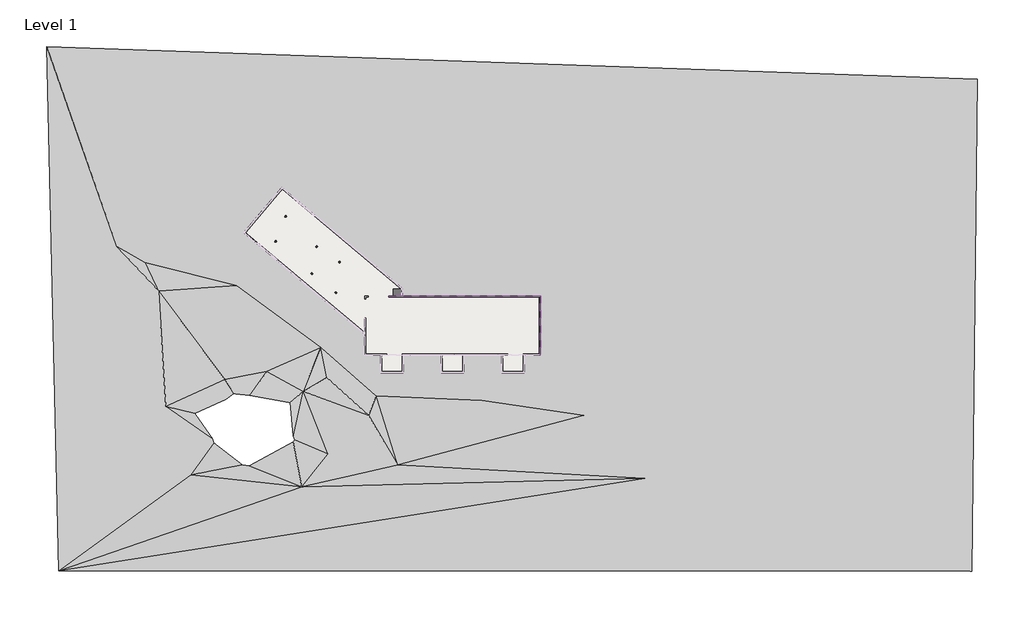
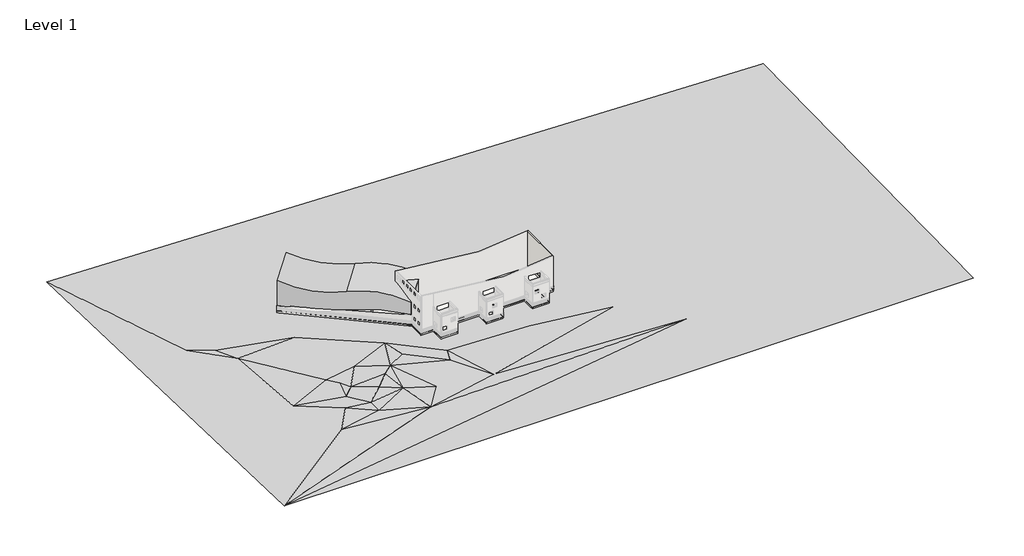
# One storey, part 6 of 6: 25 proxies, 6 columns, 1 slab, 1 wall.
"""IFC4 building model written with IfcOpenShell, lengths in millimetres."""

from ifc_helpers import new_model, si_unit, frame, origin, place, context, project, spatial, polyline, circle_curve, ellipse_curve, outline, extrude, faceted_brep, triangles, transform, mapped, element, save
from ifc_brep_helpers import plane_surface, cylinder_surface, revolved_surface, advanced_brep
from components import column_bf595cd3, column_7915c079

model = new_model("IFC4")

# Units and contexts
model_context = context("Model", 3, world=origin())
ifc_project = project(units=[si_unit("LENGTHUNIT", "METRE", prefix="MILLI")], contexts=[model_context])

# Site, building, storey
site = spatial("IfcSite", under=ifc_project)
building = spatial("IfcBuilding", under=site)
storey = spatial("IfcBuildingStorey", under=building, Name="Level 1", Elevation=0.0)

# Proxies
placement = place(None, origin())
element("IfcBuildingElementProxy", 1, Name="Wall Sweeps", at=placement, inside=storey, context=model_context, shape_type="Brep", body=[
    faceted_brep([(41871.6113427, -9337.8879393, 1085.85), (41963.6863427, -9429.9629393, 1085.85), (41998.6113427, -9464.8879393, 1041.4), (41998.6113427, -9464.8879393, 1016.0), (41871.6113427, -9337.8879393, 1016.0), (36124.8613427, -9337.8879393, 1085.85), (36124.8613427, -9337.8879393, 1016.0), (36124.8613427, -9429.9629393, 1016.0), (36124.8613427, -9464.8879393, 1016.0), (36124.8613427, -9464.8879393, 1041.4), (36124.8613427, -9429.9629393, 1085.85)], [[[0, 1, 2, 3, 4]], [[5, 6, 7, 8, 9, 10]], [[1, 0, 5, 10]], [[2, 1, 10, 9]], [[3, 2, 9, 8]], [[4, 3, 8, 7, 6]], [[0, 4, 6, 5]]]),
    faceted_brep([(30814.6738427, -9337.8879393, 1085.85), (30814.6738427, -9429.9629393, 1085.85), (30814.6738427, -9464.8879393, 1041.4), (30814.6738427, -9464.8879393, 1016.0), (30814.6738427, -9429.9629393, 1016.0), (30814.6738427, -9337.8879393, 1016.0), (12831.4738427, -9337.8879393, 1085.85), (12831.4738427, -9337.8879393, 1016.0), (12831.4738427, -9429.9629393, 1016.0), (12831.4738427, -9464.8879393, 1016.0), (12831.4738427, -9464.8879393, 1041.4), (12831.4738427, -9429.9629393, 1085.85)], [[[0, 1, 2, 3, 4, 5]], [[6, 7, 8, 9, 10, 11]], [[1, 0, 6, 11]], [[2, 1, 11, 10]], [[3, 2, 10, 9]], [[5, 4, 3, 9, 8, 7]], [[0, 5, 7, 6]]]),
    faceted_brep([(11002.6738427, -9337.8879393, 1085.85), (11002.6738427, -9429.9629393, 1085.85), (11002.6738427, -9464.8879393, 1041.4), (11002.6738427, -9464.8879393, 1016.0), (11002.6738427, -9429.9629393, 1016.0), (11002.6738427, -9337.8879393, 1016.0), (-5327.9386573, -9337.8879393, 1085.85), (-5327.9386573, -9337.8879393, 1016.0), (-5327.9386573, -9429.9629393, 1016.0), (-5327.9386573, -9464.8879393, 1016.0), (-5327.9386573, -9464.8879393, 1041.4), (-5327.9386573, -9429.9629393, 1085.85)], [[[0, 1, 2, 3, 4, 5]], [[6, 7, 8, 9, 10, 11]], [[1, 0, 6, 11]], [[2, 1, 11, 10]], [[3, 2, 10, 9]], [[5, 4, 3, 9, 8, 7]], [[0, 5, 7, 6]]]),
    faceted_brep([(-10638.1261573, -9337.8879393, 1085.85), (-10638.1261573, -9429.9629393, 1085.85), (-10638.1261573, -9464.8879393, 1041.4), (-10638.1261573, -9464.8879393, 1016.0), (-10638.1261573, -9429.9629393, 1016.0), (-10638.1261573, -9337.8879393, 1016.0), (-12290.7136573, -9337.8879393, 1085.85), (-12290.7136573, -9337.8879393, 1016.0), (-12290.7136573, -9429.9629393, 1016.0), (-12290.7136573, -9464.8879393, 1016.0), (-12290.7136573, -9464.8879393, 1041.4), (-12290.7136573, -9429.9629393, 1085.85)], [[[0, 1, 2, 3, 4, 5]], [[6, 7, 8, 9, 10, 11]], [[1, 0, 6, 11]], [[2, 1, 11, 10]], [[3, 2, 10, 9]], [[5, 4, 3, 9, 8, 7]], [[0, 5, 7, 6]]]),
])
element("IfcBuildingElementProxy", 2, Name="Reveals", at=placement, inside=storey, context=model_context, shape_type="SweptSolid", body=[
    extrude(outline(polyline([(-18104.1386573, 10709.0620607), (-18196.2136573, 10801.1370607), (-16886.5261573, 10801.1370607), (-16886.5261573, 10709.0620607), (-18104.1386573, 10709.0620607)])), frame((0.0, 0.0, 1625.6), z_axis=(0.0, 0.0, 1.0), x_axis=(1.0, 0.0, 0.0)), (0.0, 0.0, 1.0), 67.7333333),
    extrude(outline(polyline([(-9876.1261573, 10709.0620607), (-9876.1261573, 10801.1370607), (42030.3613427, 10801.1370607), (41938.2863427, 10709.0620607), (-9876.1261573, 10709.0620607)])), frame((0.0, 0.0, 1625.6), z_axis=(0.0, 0.0, 1.0), x_axis=(1.0, 0.0, 0.0)), (0.0, 0.0, 1.0), 67.7333333),
])
element("IfcBuildingElementProxy", 3, Name="Reveals", at=placement, inside=storey, context=model_context, shape_type="SweptSolid", body=[
    extrude(outline(polyline([(-18104.1386573, 10709.0620607), (-18196.2136573, 10801.1370607), (-16886.5261573, 10801.1370607), (-16886.5261573, 10709.0620607), (-18104.1386573, 10709.0620607)])), frame((0.0, 0.0, 2235.2), z_axis=(0.0, 0.0, 1.0), x_axis=(1.0, 0.0, 0.0)), (0.0, 0.0, 1.0), 67.7333333),
    extrude(outline(polyline([(-9876.1261573, 10709.0620607), (-9876.1261573, 10801.1370607), (42030.3613427, 10801.1370607), (41938.2863427, 10709.0620607), (-9876.1261573, 10709.0620607)])), frame((0.0, 0.0, 2235.2), z_axis=(0.0, 0.0, 1.0), x_axis=(1.0, 0.0, 0.0)), (0.0, 0.0, 1.0), 67.7333333),
])
element("IfcBuildingElementProxy", 4, Name="Reveals", at=placement, inside=storey, context=model_context, shape_type="SweptSolid", body=[
    extrude(outline(polyline([(-18104.1386573, 10709.0620607), (-18196.2136573, 10801.1370607), (-16886.5261573, 10801.1370607), (-16886.5261573, 10709.0620607), (-18104.1386573, 10709.0620607)])), frame((0.0, 0.0, 2844.8), z_axis=(0.0, 0.0, 1.0), x_axis=(1.0, 0.0, 0.0)), (0.0, 0.0, 1.0), 67.7333333),
    extrude(outline(polyline([(-9876.1261573, 10709.0620607), (-9876.1261573, 10801.1370607), (42030.3613427, 10801.1370607), (41938.2863427, 10709.0620607), (-9876.1261573, 10709.0620607)])), frame((0.0, 0.0, 2844.8), z_axis=(0.0, 0.0, 1.0), x_axis=(1.0, 0.0, 0.0)), (0.0, 0.0, 1.0), 67.7333333),
])
element("IfcBuildingElementProxy", 5, Name="Wall Sweeps", at=placement, inside=storey, context=model_context, shape_type="Brep", body=[
    faceted_brep([(-18037.4636573, 10642.3870607, 1085.85), (-18129.5386573, 10734.4620607, 1085.85), (-18164.4636573, 10769.3870607, 1041.4), (-18164.4636573, 10769.3870607, 1016.0), (-18037.4636573, 10642.3870607, 1016.0), (-16886.5261573, 10642.3870607, 1085.85), (-16886.5261573, 10642.3870607, 1016.0), (-16886.5261573, 10734.4620607, 1016.0), (-16886.5261573, 10769.3870607, 1016.0), (-16886.5261573, 10769.3870607, 1041.4), (-16886.5261573, 10734.4620607, 1085.85)], [[[0, 1, 2, 3, 4]], [[5, 6, 7, 8, 9, 10]], [[1, 0, 5, 10]], [[2, 1, 10, 9]], [[3, 2, 9, 8]], [[4, 3, 8, 7, 6]], [[0, 4, 6, 5]]]),
    faceted_brep([(-9876.1261573, 10642.3870607, 1085.85), (-9876.1261573, 10734.4620607, 1085.85), (-9876.1261573, 10769.3870607, 1041.4), (-9876.1261573, 10769.3870607, 1016.0), (-9876.1261573, 10734.4620607, 1016.0), (-9876.1261573, 10642.3870607, 1016.0), (41871.6113427, 10642.3870607, 1085.85), (41871.6113427, 10642.3870607, 1016.0), (41998.6113427, 10769.3870607, 1016.0), (41998.6113427, 10769.3870607, 1041.4), (41963.6863427, 10734.4620607, 1085.85)], [[[0, 1, 2, 3, 4, 5]], [[6, 7, 8, 9, 10]], [[1, 0, 6, 10]], [[2, 1, 10, 9]], [[3, 2, 9, 8]], [[5, 4, 3, 8, 7]], [[0, 5, 7, 6]]]),
])
element("IfcBuildingElementProxy", 6, Name="Wall Sweeps", at=placement, inside=storey, context=model_context, shape_type="Brep", body=[
    faceted_brep([(-18037.4636573, -9337.8879393, 1085.85), (-18129.5386573, -9429.9629393, 1085.85), (-18164.4636573, -9464.8879393, 1041.4), (-18164.4636573, -9464.8879393, 1016.0), (-18037.4636573, -9337.8879393, 1016.0), (-18037.4636573, 3243.0495607, 1085.85), (-18037.4636573, 3243.0495607, 1016.0), (-18129.5386573, 3243.0495607, 1016.0), (-18164.4636573, 3243.0495607, 1016.0), (-18164.4636573, 3243.0495607, 1041.4), (-18129.5386573, 3243.0495607, 1085.85)], [[[0, 1, 2, 3, 4]], [[5, 6, 7, 8, 9, 10]], [[1, 0, 5, 10]], [[2, 1, 10, 9]], [[3, 2, 9, 8]], [[4, 3, 8, 7, 6]], [[0, 4, 6, 5]]]),
    faceted_brep([(-18037.4636573, 9643.8495607, 1085.85), (-18129.5386573, 9643.8495607, 1085.85), (-18164.4636573, 9643.8495607, 1041.4), (-18164.4636573, 9643.8495607, 1016.0), (-18129.5386573, 9643.8495607, 1016.0), (-18037.4636573, 9643.8495607, 1016.0), (-18037.4636573, 10642.3870607, 1085.85), (-18037.4636573, 10642.3870607, 1016.0), (-18164.4636573, 10769.3870607, 1016.0), (-18164.4636573, 10769.3870607, 1041.4), (-18129.5386573, 10734.4620607, 1085.85), (-18037.4636573, 10382.0370607, 1085.85), (-18037.4636573, 10382.0370607, 1016.0)], [[[0, 1, 2, 3, 4, 5]], [[6, 7, 8, 9, 10]], [[1, 0, 11, 6, 10]], [[2, 1, 10, 9]], [[3, 2, 9, 8]], [[5, 4, 3, 8, 7, 12]], [[0, 5, 12, 7, 6, 11]]]),
])
element("IfcBuildingElementProxy", 7, Name="Reveals", at=placement, inside=storey, context=model_context, shape_type="SweptSolid", body=[
    extrude(outline(polyline([(41938.2863427, 10709.0620607), (42030.3613427, 10801.1370607), (42030.3613427, -9496.6379393), (41938.2863427, -9404.5629393), (41938.2863427, 10709.0620607)])), frame((0.0, 0.0, 1625.6), z_axis=(0.0, 0.0, 1.0), x_axis=(1.0, 0.0, 0.0)), (0.0, 0.0, 1.0), 67.7333333),
])
element("IfcBuildingElementProxy", 8, Name="Reveals", at=placement, inside=storey, context=model_context, shape_type="SweptSolid", body=[
    extrude(outline(polyline([(41938.2863427, 10709.0620607), (42030.3613427, 10801.1370607), (42030.3613427, -9496.6379393), (41938.2863427, -9404.5629393), (41938.2863427, 10709.0620607)])), frame((0.0, 0.0, 2235.2), z_axis=(0.0, 0.0, 1.0), x_axis=(1.0, 0.0, 0.0)), (0.0, 0.0, 1.0), 67.7333333),
])
element("IfcBuildingElementProxy", 9, Name="Reveals", at=placement, inside=storey, context=model_context, shape_type="SweptSolid", body=[
    extrude(outline(polyline([(41938.2863427, 10709.0620607), (42030.3613427, 10801.1370607), (42030.3613427, -9496.6379393), (41938.2863427, -9404.5629393), (41938.2863427, 10709.0620607)])), frame((0.0, 0.0, 2844.8), z_axis=(0.0, 0.0, 1.0), x_axis=(1.0, 0.0, 0.0)), (0.0, 0.0, 1.0), 67.7333333),
])
element("IfcBuildingElementProxy", 10, Name="Wall Sweeps", at=placement, inside=storey, context=model_context, shape_type="Brep", body=[
    faceted_brep([(41871.6113427, 10642.3870607, 1085.85), (41963.6863427, 10734.4620607, 1085.85), (41998.6113427, 10769.3870607, 1041.4), (41998.6113427, 10769.3870607, 1016.0), (41871.6113427, 10642.3870607, 1016.0), (41871.6113427, -9337.8879393, 1085.85), (41871.6113427, -9337.8879393, 1016.0), (41998.6113427, -9464.8879393, 1016.0), (41998.6113427, -9464.8879393, 1041.4), (41963.6863427, -9429.9629393, 1085.85), (41871.6113427, 10382.0370607, 1085.85), (41871.6113427, -9077.5379393, 1085.85), (41871.6113427, -9077.5379393, 1016.0), (41871.6113427, 10382.0370607, 1016.0)], [[[0, 1, 2, 3, 4]], [[5, 6, 7, 8, 9]], [[1, 0, 10, 11, 5, 9]], [[2, 1, 9, 8]], [[3, 2, 8, 7]], [[4, 3, 7, 6, 12, 13]], [[0, 4, 13, 12, 6, 5, 11, 10]]]),
])
element("IfcBuildingElementProxy", 11, Name="Wall Sweeps", at=placement, inside=storey, context=model_context, shape_type="Brep", body=[
    faceted_brep([(-12551.0636573, -10625.3504393, 1085.85), (-12551.0636573, -10625.3504393, 1016.0), (-12643.1386573, -10625.3504393, 1016.0), (-12678.0636573, -10625.3504393, 1016.0), (-12678.0636573, -10625.3504393, 1041.4), (-12643.1386573, -10625.3504393, 1085.85), (-12551.0636573, -15433.8879393, 1085.85), (-12643.1386573, -15525.9629393, 1085.85), (-12678.0636573, -15560.8879393, 1041.4), (-12678.0636573, -15560.8879393, 1016.0), (-12551.0636573, -15433.8879393, 1016.0)], [[[0, 1, 2, 3, 4, 5]], [[6, 7, 8, 9, 10]], [[1, 0, 6, 10]], [[3, 2, 1, 10, 9]], [[4, 3, 9, 8]], [[5, 4, 8, 7]], [[0, 5, 7, 6]]]),
    faceted_brep([(-12551.0636573, -9337.8879393, 1085.85), (-12551.0636573, -9337.8879393, 1016.0), (-12678.0636573, -9464.8879393, 1016.0), (-12678.0636573, -9464.8879393, 1041.4), (-12643.1386573, -9429.9629393, 1085.85), (-12551.0636573, -9710.9504393, 1085.85), (-12643.1386573, -9710.9504393, 1085.85), (-12678.0636573, -9710.9504393, 1041.4), (-12678.0636573, -9710.9504393, 1016.0), (-12643.1386573, -9710.9504393, 1016.0), (-12551.0636573, -9710.9504393, 1016.0), (-12551.0636573, -9429.9629393, 1085.85), (-12551.0636573, -9429.9629393, 1016.0)], [[[0, 1, 2, 3, 4]], [[5, 6, 7, 8, 9, 10]], [[1, 0, 11, 5, 10, 12]], [[2, 1, 12, 10, 9, 8]], [[3, 2, 8, 7]], [[4, 3, 7, 6]], [[0, 4, 6, 5, 11]]]),
])
element("IfcBuildingElementProxy", 12, Name="Wall Sweeps", at=placement, inside=storey, context=model_context, shape_type="Brep", body=[
    faceted_brep([(-12551.0636573, -15433.8879393, 1085.85), (-12551.0636573, -15433.8879393, 1016.0), (-12678.0636573, -15560.8879393, 1016.0), (-12678.0636573, -15560.8879393, 1041.4), (-12643.1386573, -15525.9629393, 1085.85), (-5067.5886573, -15433.8879393, 1085.85), (-4975.5136573, -15525.9629393, 1085.85), (-4940.5886573, -15560.8879393, 1041.4), (-4940.5886573, -15560.8879393, 1016.0), (-5067.5886573, -15433.8879393, 1016.0), (-12290.7136573, -15433.8879393, 1085.85), (-12290.7136573, -15433.8879393, 1016.0)], [[[0, 1, 2, 3, 4]], [[5, 6, 7, 8, 9]], [[1, 0, 10, 5, 9, 11]], [[2, 1, 11, 9, 8]], [[3, 2, 8, 7]], [[4, 3, 7, 6]], [[0, 4, 6, 5, 10]]]),
])
element("IfcBuildingElementProxy", 13, Name="Wall Sweeps", at=placement, inside=storey, context=model_context, shape_type="Brep", body=[
    faceted_brep([(-5067.5886573, -15433.8879393, 1085.85), (-5067.5886573, -15433.8879393, 1016.0), (-4940.5886573, -15560.8879393, 1016.0), (-4940.5886573, -15560.8879393, 1041.4), (-4975.5136573, -15525.9629393, 1085.85), (-5067.5886573, -9429.9629393, 1085.85), (-4975.5136573, -9429.9629393, 1085.85), (-4940.5886573, -9429.9629393, 1041.4), (-4940.5886573, -9429.9629393, 1016.0), (-4975.5136573, -9429.9629393, 1016.0), (-5067.5886573, -9429.9629393, 1016.0), (-5067.5886573, -15173.5379393, 1085.85), (-5067.5886573, -9464.8879393, 1016.0), (-5067.5886573, -15173.5379393, 1016.0)], [[[0, 1, 2, 3, 4]], [[5, 6, 7, 8, 9, 10]], [[1, 0, 11, 5, 10, 12, 13]], [[2, 1, 13, 12, 10, 9, 8]], [[3, 2, 8, 7]], [[4, 3, 7, 6]], [[0, 4, 6, 5, 11]]]),
])
element("IfcBuildingElementProxy", 14, Name="Wall Sweeps", at=placement, inside=storey, context=model_context, shape_type="Brep", body=[
    faceted_brep([(8175.3363427, -10625.3504393, 1085.85), (8175.3363427, -10625.3504393, 1016.0), (8083.2613427, -10625.3504393, 1016.0), (8048.3363427, -10625.3504393, 1016.0), (8048.3363427, -10625.3504393, 1041.4), (8083.2613427, -10625.3504393, 1085.85), (8175.3363427, -15433.8879393, 1085.85), (8083.2613427, -15525.9629393, 1085.85), (8048.3363427, -15560.8879393, 1041.4), (8048.3363427, -15560.8879393, 1016.0), (8175.3363427, -15433.8879393, 1016.0)], [[[0, 1, 2, 3, 4, 5]], [[6, 7, 8, 9, 10]], [[1, 0, 6, 10]], [[3, 2, 1, 10, 9]], [[4, 3, 9, 8]], [[5, 4, 8, 7]], [[0, 5, 7, 6]]]),
    faceted_brep([(8175.3363427, -9429.9629393, 1085.85), (8175.3363427, -9429.9629393, 1016.0), (8083.2613427, -9429.9629393, 1016.0), (8048.3363427, -9429.9629393, 1016.0), (8048.3363427, -9429.9629393, 1041.4), (8083.2613427, -9429.9629393, 1085.85), (8175.3363427, -9710.9504393, 1085.85), (8083.2613427, -9710.9504393, 1085.85), (8048.3363427, -9710.9504393, 1041.4), (8048.3363427, -9710.9504393, 1016.0), (8083.2613427, -9710.9504393, 1016.0), (8175.3363427, -9710.9504393, 1016.0)], [[[0, 1, 2, 3, 4, 5]], [[6, 7, 8, 9, 10, 11]], [[1, 0, 6, 11]], [[3, 2, 1, 11, 10, 9]], [[4, 3, 9, 8]], [[5, 4, 8, 7]], [[0, 5, 7, 6]]]),
])
element("IfcBuildingElementProxy", 15, Name="Wall Sweeps", at=placement, inside=storey, context=model_context, shape_type="Brep", body=[
    faceted_brep([(8175.3363427, -15433.8879393, 1085.85), (8175.3363427, -15433.8879393, 1016.0), (8048.3363427, -15560.8879393, 1016.0), (8048.3363427, -15560.8879393, 1041.4), (8083.2613427, -15525.9629393, 1085.85), (15658.8113427, -15433.8879393, 1085.85), (15750.8863427, -15525.9629393, 1085.85), (15785.8113427, -15560.8879393, 1041.4), (15785.8113427, -15560.8879393, 1016.0), (15658.8113427, -15433.8879393, 1016.0), (8435.6863427, -15433.8879393, 1085.85), (8435.6863427, -15433.8879393, 1016.0)], [[[0, 1, 2, 3, 4]], [[5, 6, 7, 8, 9]], [[1, 0, 10, 5, 9, 11]], [[2, 1, 11, 9, 8]], [[3, 2, 8, 7]], [[4, 3, 7, 6]], [[0, 4, 6, 5, 10]]]),
])
element("IfcBuildingElementProxy", 16, Name="Wall Sweeps", at=placement, inside=storey, context=model_context, shape_type="Brep", body=[
    faceted_brep([(15658.8113427, -15433.8879393, 1085.85), (15658.8113427, -15433.8879393, 1016.0), (15785.8113427, -15560.8879393, 1016.0), (15785.8113427, -15560.8879393, 1041.4), (15750.8863427, -15525.9629393, 1085.85), (15658.8113427, -9429.9629393, 1085.85), (15750.8863427, -9429.9629393, 1085.85), (15785.8113427, -9429.9629393, 1041.4), (15785.8113427, -9429.9629393, 1016.0), (15750.8863427, -9429.9629393, 1016.0), (15658.8113427, -9429.9629393, 1016.0), (15658.8113427, -15173.5379393, 1085.85), (15658.8113427, -15173.5379393, 1016.0)], [[[0, 1, 2, 3, 4]], [[5, 6, 7, 8, 9, 10]], [[1, 0, 11, 5, 10, 12]], [[2, 1, 12, 10, 9, 8]], [[3, 2, 8, 7]], [[4, 3, 7, 6]], [[0, 4, 6, 5, 11]]]),
])
element("IfcBuildingElementProxy", 17, Name="Wall Sweeps", at=placement, inside=storey, context=model_context, shape_type="Brep", body=[
    faceted_brep([(28901.7363427, -10625.3504393, 1085.85), (28901.7363427, -10625.3504393, 1016.0), (28809.6613427, -10625.3504393, 1016.0), (28774.7363427, -10625.3504393, 1016.0), (28774.7363427, -10625.3504393, 1041.4), (28809.6613427, -10625.3504393, 1085.85), (28901.7363427, -15433.8879393, 1085.85), (28809.6613427, -15525.9629393, 1085.85), (28774.7363427, -15560.8879393, 1041.4), (28774.7363427, -15560.8879393, 1016.0), (28901.7363427, -15433.8879393, 1016.0)], [[[0, 1, 2, 3, 4, 5]], [[6, 7, 8, 9, 10]], [[1, 0, 6, 10]], [[3, 2, 1, 10, 9]], [[4, 3, 9, 8]], [[5, 4, 8, 7]], [[0, 5, 7, 6]]]),
    faceted_brep([(28901.7363427, -9429.9629393, 1085.85), (28901.7363427, -9429.9629393, 1016.0), (28809.6613427, -9429.9629393, 1016.0), (28774.7363427, -9429.9629393, 1016.0), (28774.7363427, -9429.9629393, 1041.4), (28809.6613427, -9429.9629393, 1085.85), (28901.7363427, -9710.9504393, 1085.85), (28809.6613427, -9710.9504393, 1085.85), (28774.7363427, -9710.9504393, 1041.4), (28774.7363427, -9710.9504393, 1016.0), (28809.6613427, -9710.9504393, 1016.0), (28901.7363427, -9710.9504393, 1016.0)], [[[0, 1, 2, 3, 4, 5]], [[6, 7, 8, 9, 10, 11]], [[1, 0, 6, 11]], [[3, 2, 1, 11, 10, 9]], [[4, 3, 9, 8]], [[5, 4, 8, 7]], [[0, 5, 7, 6]]]),
])
element("IfcBuildingElementProxy", 18, Name="Wall Sweeps", at=placement, inside=storey, context=model_context, shape_type="Brep", body=[
    faceted_brep([(28901.7363427, -15433.8879393, 1085.85), (28901.7363427, -15433.8879393, 1016.0), (28774.7363427, -15560.8879393, 1016.0), (28774.7363427, -15560.8879393, 1041.4), (28809.6613427, -15525.9629393, 1085.85), (36385.2113427, -15433.8879393, 1085.85), (36477.2863427, -15525.9629393, 1085.85), (36512.2113427, -15560.8879393, 1041.4), (36512.2113427, -15560.8879393, 1016.0), (36385.2113427, -15433.8879393, 1016.0), (29162.0863427, -15433.8879393, 1085.85), (29162.0863427, -15433.8879393, 1016.0)], [[[0, 1, 2, 3, 4]], [[5, 6, 7, 8, 9]], [[1, 0, 10, 5, 9, 11]], [[2, 1, 11, 9, 8]], [[3, 2, 8, 7]], [[4, 3, 7, 6]], [[0, 4, 6, 5, 10]]]),
])
element("IfcBuildingElementProxy", 19, Name="Wall Sweeps", at=placement, inside=storey, context=model_context, shape_type="Brep", body=[
    faceted_brep([(36385.2113427, -15433.8879393, 1085.85), (36385.2113427, -15433.8879393, 1016.0), (36512.2113427, -15560.8879393, 1016.0), (36512.2113427, -15560.8879393, 1041.4), (36477.2863427, -15525.9629393, 1085.85), (36385.2113427, -9429.9629393, 1085.85), (36477.2863427, -9429.9629393, 1085.85), (36512.2113427, -9429.9629393, 1041.4), (36512.2113427, -9429.9629393, 1016.0), (36477.2863427, -9429.9629393, 1016.0), (36385.2113427, -9429.9629393, 1016.0), (36385.2113427, -15173.5379393, 1085.85), (36385.2113427, -15173.5379393, 1016.0)], [[[0, 1, 2, 3, 4]], [[5, 6, 7, 8, 9, 10]], [[1, 0, 11, 5, 10, 12]], [[2, 1, 12, 10, 9, 8]], [[3, 2, 8, 7]], [[4, 3, 7, 6]], [[0, 4, 6, 5, 11]]]),
])
element("IfcBuildingElementProxy", 20, Name="Wall Sweeps", at=placement, inside=storey, context=model_context, shape_type="Brep", body=[
    faceted_brep([(-12551.0636573, -9337.8879393, 1085.85), (-12643.1386573, -9429.9629393, 1085.85), (-12678.0636573, -9464.8879393, 1041.4), (-12678.0636573, -9464.8879393, 1016.0), (-12551.0636573, -9337.8879393, 1016.0), (-18037.4636573, -9337.8879393, 1085.85), (-18037.4636573, -9337.8879393, 1016.0), (-18164.4636573, -9464.8879393, 1016.0), (-18164.4636573, -9464.8879393, 1041.4), (-18129.5386573, -9429.9629393, 1085.85), (-17777.1136573, -9337.8879393, 1085.85), (-17777.1136573, -9337.8879393, 1016.0)], [[[0, 1, 2, 3, 4]], [[5, 6, 7, 8, 9]], [[1, 0, 10, 5, 9]], [[2, 1, 9, 8]], [[3, 2, 8, 7]], [[4, 3, 7, 6, 11]], [[0, 4, 11, 6, 5, 10]]]),
])
element("IfcBuildingElementProxy", 21, Name="Building Element Proxy", at=placement, inside=storey, context=model_context, shape_type="Tessellation", body=[
    triangles([(-126983.1607178, 96175.2923584, 0.0), (191531.118457, 84924.6395508, 0.0), (189656.5166016, -83501.7496582, 0.0), (-122847.3852539, -83326.4487305, 0.0), (-65220.093457, -32388.9555725, 1524.0), (-60632.8943848, -27801.7541748, 1524.0), (-50948.80177, -33408.3352112, 1524.0), (-59103.8249268, -40798.8259644, 1524.0), (-62671.6490112, -22959.7101929, 1219.2), (-43813.1536011, -26017.844458, 1219.2), (-42793.7786133, -38250.3791931, 1219.2), (-58848.9800171, -46915.0944946, 1219.2), (-69297.6073608, -38760.0690125, 1219.2), (-65984.628186, -17862.8189758, 914.4), (-39225.9545288, -21940.3305542, 914.4), (-30816.0864624, -43347.2704102, 914.4), (-39735.6443481, -54560.427832, 914.4), (-77707.4754272, -50482.9185791, 914.4), (-86117.3481445, -27037.2217712, 914.4), (-51713.336499, -15059.5296204, 609.6), (-16799.6373596, -30095.3560364, 609.6), (-6860.7015793, -47169.9394043, 609.6), (-31070.9290466, -17098.2854095, 609.6), (-88665.7879395, 12463.6776031, 609.6), (-93252.9870117, 22147.7690552, 304.8), (-61907.1142822, 14247.5896454, 304.8), (-33109.6859985, -6904.5053009, 304.8), (-14251.1917511, -23469.3976868, 304.8), (21936.7284485, -24998.4648193, 304.8), (56850.4275879, -30095.3560364, 304.8), (77747.6776245, -51757.1384766, 304.8), (-102937.0842773, 27754.3477661, 304.8)], [[4, 18, 19], [12, 18, 17], [19, 13, 5], [13, 19, 18], [18, 12, 13], [4, 19, 32], [7, 6, 8], [8, 5, 13], [19, 5, 14], [6, 5, 8], [6, 10, 20], [8, 13, 12], [18, 4, 17], [9, 5, 6], [1, 25, 26], [24, 25, 32], [1, 32, 25], [32, 1, 4], [25, 24, 26], [32, 19, 24], [14, 9, 20], [24, 19, 14], [26, 20, 27], [20, 26, 14], [9, 6, 20], [14, 26, 24], [5, 9, 14], [1, 26, 2], [8, 12, 11], [17, 16, 11], [16, 17, 22], [11, 10, 7], [7, 8, 11], [15, 11, 16], [11, 12, 17], [30, 31, 2], [31, 22, 17], [22, 21, 16], [30, 22, 31], [31, 3, 2], [17, 4, 31], [4, 3, 31], [29, 22, 30], [15, 27, 20], [23, 15, 21], [27, 23, 28], [23, 27, 15], [10, 11, 15], [20, 10, 15], [22, 28, 21], [28, 22, 29], [29, 27, 28], [29, 2, 26], [29, 30, 2], [21, 28, 23], [16, 21, 15], [29, 26, 27], [10, 6, 7]], closed=False),
])
element("IfcBuildingElementProxy", 22, Name="Wall Sweeps", at=placement, inside=storey, context=model_context, shape_type="Brep", body=[
    faceted_brep([(-59247.6586401, 32399.7928509, 1085.85), (-59247.6586401, 32399.7928509, 1016.0), (-59426.5803108, 32384.1392331, 1016.0), (-59426.5803108, 32384.1392331, 1041.4), (-59377.3768514, 32388.443978, 1085.85), (-18070.3539882, -2152.0682954, 1085.85), (-18129.5386573, -2222.6018375, 1085.85), (-18151.9880146, -2249.3559397, 1041.4), (-18151.9880146, -2249.3559397, 1016.0), (-18070.3539882, -2152.0682954, 1016.0), (-18129.5386573, -2102.4064614, 1085.85), (-18129.5386573, -2102.4064614, 1016.0)], [[[0, 1, 2, 3, 4]], [[5, 6, 7, 8, 9]], [[1, 0, 10, 5, 9, 11]], [[2, 1, 11, 9, 8]], [[3, 2, 8, 7]], [[4, 3, 7, 6]], [[0, 4, 6, 5, 10]]]),
])
element("IfcBuildingElementProxy", 23, Name="Wall Sweeps", at=placement, inside=storey, context=model_context, shape_type="Brep", body=[
    faceted_brep([(-46426.0143639, 47680.03348, 1085.85), (-46426.0143639, 47680.03348, 1016.0), (-46441.6679818, 47858.9551507, 1016.0), (-46441.6679818, 47858.9551507, 1041.4), (-46437.3632369, 47809.7516913, 1085.85), (-59247.6586401, 32399.7928509, 1085.85), (-59377.3768514, 32388.443978, 1085.85), (-59426.5803108, 32384.1392331, 1041.4), (-59426.5803108, 32384.1392331, 1016.0), (-59247.6586401, 32399.7928509, 1016.0), (-59080.3088859, 32599.2325217, 1085.85), (-59080.3088859, 32599.2325217, 1016.0)], [[[0, 1, 2, 3, 4]], [[5, 6, 7, 8, 9]], [[1, 0, 10, 5, 9, 11]], [[2, 1, 11, 9, 8]], [[3, 2, 8, 7]], [[4, 3, 7, 6]], [[0, 4, 6, 5, 10]]]),
])
element("IfcBuildingElementProxy", 24, Name="Wall Sweeps", at=placement, inside=storey, context=model_context, shape_type="Brep", body=[
    faceted_brep([(-5275.5788518, 13150.718219, 1085.85), (-5275.5788518, 13150.718219, 1016.0), (-5216.3941827, 13221.2517611, 1016.0), (-5193.9448254, 13248.0058633, 1016.0), (-5193.9448254, 13248.0058633, 1041.4), (-5216.3941827, 13221.2517611, 1085.85), (-46426.0143639, 47680.03348, 1085.85), (-46437.3632369, 47809.7516913, 1085.85), (-46441.6679818, 47858.9551507, 1041.4), (-46441.6679818, 47858.9551507, 1016.0), (-46426.0143639, 47680.03348, 1016.0), (-46226.5746932, 47512.6837258, 1085.85), (-46226.5746932, 47512.6837258, 1016.0)], [[[0, 1, 2, 3, 4, 5]], [[6, 7, 8, 9, 10]], [[1, 0, 11, 6, 10, 12]], [[3, 2, 1, 12, 10, 9]], [[4, 3, 9, 8]], [[5, 4, 8, 7]], [[0, 5, 7, 6, 11]]]),
])
element("IfcBuildingElementProxy", 25, Name="Mass 1 : Mass 1", ObjectType="Mass 1 : Mass 1", at=placement, inside=storey, context=model_context, shape_type="AdvancedBrep", body=[
    advanced_brep(
    [(-5348.7113943, 13077.3819938, 11473.8355), (-5505.2119223, 13077.3819938, 11473.8355), (-7441.8496195, 10769.3870607, 11473.8355), (-7285.3490915, 10769.3870607, 11473.8355), (-8437.0315584, 13077.3819938, 0.0), (-5348.7113943, 13077.3819938, 0.0), (-5348.7113943, 10769.3870607, 0.0), (-8437.0315584, 10769.3870607, 0.0), (-8437.0315584, 10769.3870607, 5888.6855472), (-8437.0315584, 13077.3819938, 6089.6036493), (-5348.7113943, 10769.3870607, 10755.9291819), (-7441.8496195, 10769.3870607, 5772.8755681), (-5505.2119223, 13077.3819938, 5772.8755681), (-59102.2847827, 32412.5114154, 3585.4474171), (-38393.9120711, 15036.1235108, 4891.5614291), (-18129.5386573, -1967.7047467, 5772.8755681), (-18129.5386573, -1967.7047467, 11528.4454611), (-19280.8778687, -1001.6164391, 12171.5943549), (-37903.7802026, 14624.8540408, 13609.0302353), (-59102.2847827, 32412.5114154, 15522.824296), (-46413.2957994, 47534.6596226, 3585.4474171), (-46413.2957994, 47534.6596226, 15522.824296), (-25214.7912194, 29747.002248, 13609.0302353), (-6591.8888854, 14120.5317681, 12171.5943549), (-5440.5496741, 13154.4434605, 11528.4454611), (-5440.5496741, 13154.4434605, 5772.8755681), (-25704.9230879, 30158.271718, 4891.5614291)],
    [
        (0, 1),
        (1, 2),
        (2, 3),
        (3, 0),
        (4, 5),
        (5, 6),
        (6, 7),
        (7, 4),
        (7, 8),
        (8, 9, ellipse_curve(frame((-8437.0315584, 26587.1294132, -63608.6813832), z_axis=(-1.0, 0.0, 0.0), x_axis=(0.0, 1.0, 0.0)), 109269.649706, 70237.1769458)),
        (9, 4),
        (6, 10),
        (10, 3, ellipse_curve(frame((-28065.8588949, 10769.3870607, -23314.1178127), z_axis=(0.0, -1.0, 0.0), x_axis=(1.0, 0.0, 0.0)), 49941.1654458, 38257.1522727)),
        (2, 11),
        (11, 8, ellipse_curve(frame((-21709.6933324, 10769.3870607, -63608.6813832), z_axis=(0.0, -1.0, 0.0), x_axis=(0.9999999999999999, 0.0, 0.0)), 91688.1227672, 70237.1769458)),
        (5, 0),
        (0, 10, ellipse_curve(frame((-5348.7113943, 37842.629208, -23314.1178127), z_axis=(1.0, 0.0, 0.0), x_axis=(0.0, 1.0, 0.0)), 59517.5633384, 38257.1522727)),
        (9, 12, ellipse_curve(frame((-19773.0556353, 13077.3819938, -63608.6813832), z_axis=(0.0, 1.0, 0.0), x_axis=(0.9999999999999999, 0.0, 0.0)), 91688.1227672, 70237.1769458)),
        (12, 1),
        (13, 14, circle_curve(frame((-51584.5488503, 26104.3819673, 80874.3843597), z_axis=(-0.6427876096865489, -0.76604444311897, 0.0), x_axis=(0.76604444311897, -0.6427876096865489, 0.0)), 77909.4899509)),
        (14, 15, circle_curve(frame((-26502.2530438, 5057.8368069, -63608.6813832), z_axis=(0.6427876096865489, 0.76604444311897, 0.0), x_axis=(0.76604444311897, -0.6427876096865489, 0.0)), 70237.1769458)),
        (15, 16),
        (16, 17, circle_curve(frame((-30232.2041085, 8187.6373696, -23314.1178127), z_axis=(-0.6427876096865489, -0.76604444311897, 0.0), x_axis=(0.76604444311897, -0.6427876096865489, 0.0)), 38257.1522727)),
        (17, 18, circle_curve(frame((-30232.2041085, 8187.6373696, -23314.1178127), z_axis=(-0.6427876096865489, -0.76604444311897, 0.0), x_axis=(0.76604444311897, -0.6427876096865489, 0.0)), 38257.1522727)),
        (18, 19, circle_curve(frame((-46389.9055352, 21745.5586775, 54452.5880861), z_axis=(0.642787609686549, 0.76604444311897, 0.0), x_axis=(0.76604444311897, -0.642787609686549, 0.0)), 42319.2033904)),
        (19, 13),
        (20, 21),
        (21, 22, circle_curve(frame((-33700.916552, 36867.7068846, 54452.5880861), z_axis=(-0.642787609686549, -0.76604444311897, 0.0), x_axis=(0.76604444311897, -0.642787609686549, 0.0)), 42319.2033904)),
        (22, 23, circle_curve(frame((-17543.2151253, 23309.7855768, -23314.1178127), z_axis=(0.6427876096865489, 0.76604444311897, 0.0), x_axis=(0.76604444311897, -0.6427876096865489, 0.0)), 38257.1522727)),
        (23, 24, circle_curve(frame((-17543.2151253, 23309.7855768, -23314.1178127), z_axis=(0.6427876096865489, 0.76604444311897, 0.0), x_axis=(0.76604444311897, -0.6427876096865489, 0.0)), 38257.1522727)),
        (24, 25),
        (25, 26, circle_curve(frame((-13813.2640605, 20179.9850141, -63608.6813832), z_axis=(-0.6427876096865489, -0.76604444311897, 0.0), x_axis=(0.76604444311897, -0.6427876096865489, 0.0)), 70237.1769458)),
        (26, 20, circle_curve(frame((-38895.559867, 41226.5301744, 80874.3843597), z_axis=(0.6427876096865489, 0.76604444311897, 0.0), x_axis=(0.76604444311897, -0.6427876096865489, 0.0)), 77909.4899509)),
        (13, 20),
        (26, 14),
        (25, 12),
        (11, 15),
        (24, 16),
        (22, 18),
        (21, 19),
    ],
    [
        plane_surface(frame((-8437.0315584, 13077.3819938, 11473.8355), z_axis=(0.0, 0.0, 1.0), x_axis=(0.0, -1.0, 0.0))),
        plane_surface(frame((-8437.0315584, 13077.3819938, 0.0), z_axis=(0.0, 0.0, -1.0), x_axis=(0.0, 1.0, 0.0))),
        plane_surface(frame((-8437.0315584, 13077.3819938, 11473.8355), z_axis=(-1.0, 0.0, 0.0), x_axis=(0.0, 0.0, -1.0))),
        plane_surface(frame((-8437.0315584, 10769.3870607, 11473.8355), z_axis=(0.0, -1.0, 0.0), x_axis=(0.0, 0.0, -1.0))),
        plane_surface(frame((-5348.7113943, 10769.3870607, 11473.8355), z_axis=(1.0, 0.0, 0.0), x_axis=(0.0, 0.0, -1.0))),
        plane_surface(frame((-5348.7113943, 13077.3819938, 11473.8355), z_axis=(0.0, 1.0, 0.0), x_axis=(0.0, 0.0, -1.0))),
        plane_surface(frame((8097.5829928, -23974.8728502, 80874.3843597), z_axis=(-0.6427876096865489, -0.76604444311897, 0.0), x_axis=(0.0, 0.0, 1.0))),
        plane_surface(frame((20786.571976, -8852.724643, 80874.3843597), z_axis=(0.6427876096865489, 0.76604444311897, 0.0), x_axis=(0.0, 0.0, -1.0))),
        cylinder_surface(frame((-38895.559867, 41226.5301744, 80874.3843597), z_axis=(-0.6427876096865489, -0.76604444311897, 0.0), x_axis=(0.76604444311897, -0.6427876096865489, 0.0)), 77909.4899509),
        revolved_surface(polyline([(99172.56664104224, 45561.60495891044, -63608.6813832), (-8437.031558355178, -82682.52029283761, -63608.6813832)]), (-13813.2640605, 20179.9850141, -63608.6813832), (0.6427876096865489, 0.76604444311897, 0.0)),
        plane_surface(frame((-18129.5386573, -1967.7047467, 5772.8755681), z_axis=(0.76604444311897, -0.6427876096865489, 0.0), x_axis=(0.6427876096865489, 0.76604444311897, 0.0))),
        cylinder_surface(frame((-17543.2151253, 23309.7855768, -23314.1178127), z_axis=(-0.6427876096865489, -0.76604444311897, 0.0), x_axis=(0.76604444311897, -0.6427876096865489, 0.0)), 38257.1522727),
        revolved_surface(polyline([(-1282.5259575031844, 9665.447293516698, 54452.5880861), (-13971.51494078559, -5456.700913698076, 54452.5880861)]), (-33700.916552, 36867.7068846, 54452.5880861), (0.6427876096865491, 0.7660444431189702, 0.0)),
        plane_surface(frame((-59102.2847827, 32412.5114154, 15522.824296), z_axis=(-0.7660444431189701, 0.6427876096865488, 0.0), x_axis=(0.6427876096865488, 0.7660444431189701, 0.0))),
        cylinder_surface(frame((-15679.4137117, 25530.9776073, -23314.1178127), z_axis=(0.6427876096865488, 0.7660444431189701, 0.0), x_axis=(0.7660444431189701, -0.6427876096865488, 0.0)), 38257.1522727),
    ],
    [
        (0, [[1, 2, 3, 4]]),
        (1, [[5, 6, 7, 8]]),
        (2, [[-8, 9, 10, 11]]),
        (3, [[-7, 12, 13, -3, 14, 15, -9]]),
        (4, [[-6, 16, 17, -12]]),
        (5, [[-5, -11, 18, 19, -1, -16]]),
        (6, [[20, 21, 22, 23, 24, 25, 26]]),
        (7, [[27, 28, 29, 30, 31, 32, 33]]),
        (8, [[-20, 34, -33, 35]]),
        (9, [[-21, -35, -32, 36, -18, -10, -15, 37]]),
        (10, [[-22, -37, -14, -2, -19, -36, -31, 38]]),
        (11, [[-38, -30, -29, 39, -24, -23]]),
        (12, [[-25, -39, -28, 40]]),
        (13, [[-26, -40, -27, -34]]),
        (14, [[-4, -13, -17]]),
    ],
),
])

# Columns
column_shape = column_bf595cd3(model_context)
element("IfcColumn", 26, ObjectType="Concrete-Round-Column : 24\"", at=placement, inside=storey, context=model_context, shape_type="MappedRepresentation", body=[
    mapped(column_shape, transform((-48585.7261573, 29455.8495607, 0.0), x_axis=(1.0, 0.0, 0.0), y_axis=(0.0, 1.0, 0.0), z_axis=(0.0, 0.0, 1.0))),
])
element("IfcColumn", 27, ObjectType="Concrete-Round-Column : 24\"", at=placement, inside=storey, context=model_context, shape_type="MappedRepresentation", body=[
    mapped(column_shape, transform((-34564.9261573, 27627.0495607, 0.0), x_axis=(1.0, 0.0, 0.0), y_axis=(0.0, 1.0, 0.0), z_axis=(0.0, 0.0, 1.0))),
])
element("IfcColumn", 28, ObjectType="Concrete-Round-Column : 24\"", at=placement, inside=storey, context=model_context, shape_type="MappedRepresentation", body=[
    mapped(column_shape, transform((-28011.7261573, 11867.9370607, 0.0), x_axis=(1.0, 0.0, 0.0), y_axis=(0.0, 1.0, 0.0), z_axis=(0.0, 0.0, 1.0))),
])
column_2_shape = column_7915c079(model_context)
element("IfcColumn", 29, ObjectType="Concrete-Round-Column : 24\"", at=placement, inside=storey, context=model_context, shape_type="MappedRepresentation", body=[
    mapped(column_2_shape, transform((-45158.1540488, 37988.6552016, 0.0), x_axis=(1.0, 0.0, 0.0), y_axis=(0.0, 1.0, 0.0), z_axis=(0.0, 0.0, 1.0))),
])
element("IfcColumn", 30, ObjectType="Concrete-Round-Column : 24\"", at=placement, inside=storey, context=model_context, shape_type="MappedRepresentation", body=[
    mapped(column_2_shape, transform((-36205.2280981, 18391.7265577, 0.0), x_axis=(1.0, 0.0, 0.0), y_axis=(0.0, 1.0, 0.0), z_axis=(0.0, 0.0, 1.0))),
])
element("IfcColumn", 31, ObjectType="Concrete-Round-Column : 24\"", at=placement, inside=storey, context=model_context, shape_type="MappedRepresentation", body=[
    mapped(column_2_shape, transform((-26712.9731366, 22387.1608821, 0.0), x_axis=(1.0, 0.0, 0.0), y_axis=(0.0, 1.0, 0.0), z_axis=(0.0, 0.0, 1.0))),
])

# Slab
element("IfcSlab", 32, ObjectType="Generic - 12\"", at=placement, inside=storey, context=model_context, shape_type="Brep", body=[
    faceted_brep([(41623.9613427, 10394.7370607, 0.0), (41623.9613427, 10382.0370607, 0.0), (41623.9613427, -9077.5379393, 0.0), (41623.9613427, -9090.2379393, 0.0), (36124.8613427, -9090.2379393, 0.0), (36124.8613427, -9337.8879393, 0.0), (36124.8613427, -9429.9629393, 0.0), (36124.8613427, -15173.5379393, 0.0), (29162.0863427, -15173.5379393, 0.0), (29162.0863427, -9429.9629393, 0.0), (29162.0863427, -9337.8879393, 0.0), (29162.0863427, -9090.2379393, 0.0), (15398.4613427, -9090.2379393, 0.0), (15398.4613427, -9337.8879393, 0.0), (15398.4613427, -9429.9629393, 0.0), (15398.4613427, -15173.5379393, 0.0), (8435.6863427, -15173.5379393, 0.0), (8435.6863427, -9429.9629393, 0.0), (8435.6863427, -9337.8879393, 0.0), (8435.6863427, -9090.2379393, 0.0), (-5327.9386573, -9090.2379393, 0.0), (-5327.9386573, -9337.8879393, 0.0), (-5327.9386573, -9429.9629393, 0.0), (-5327.9386573, -15173.5379393, 0.0), (-12290.7136573, -15173.5379393, 0.0), (-12290.7136573, -9429.9629393, 0.0), (-12290.7136573, -9337.8879393, 0.0), (-12290.7136573, -9090.2379393, 0.0), (-12466.9261573, -9090.2379393, 0.0), (-17777.1136573, -9090.2379393, 0.0), (-17789.8136573, -9090.2379393, 0.0), (-17789.8136573, -2277.6358778, 0.0), (-18037.4636573, -2069.8328541, 0.0), (-18129.5386573, -1992.5727556, 0.0), (-59129.1230333, 32410.1633727, 0.0), (-46415.6438421, 47561.4978732, 0.0), (-5329.6613943, 13086.2651547, 0.0), (-5329.6613943, 10734.4620607, 0.0), (-5329.6613943, 10642.3870607, 0.0), (-5329.6613943, 10394.7370607, 0.0), (41623.9613427, 10394.7370607, 304.8), (-5329.6613943, 10394.7370607, 304.8), (-5329.6613943, 10734.4620607, 304.8), (-5329.6613943, 13086.2651547, 304.8), (-46415.6438421, 47561.4978732, 304.8), (-59129.1230333, 32410.1633727, 304.8), (-18129.5386573, -1992.5727556, 304.8), (-17789.8136573, -2277.6358778, 304.8), (-17789.8136573, -9090.2379393, 304.8), (-17777.1136573, -9090.2379393, 304.8), (-12466.9261573, -9090.2379393, 304.8), (-12290.7136573, -9090.2379393, 304.8), (-12290.7136573, -9429.9629393, 304.8), (-12290.7136573, -15173.5379393, 304.8), (-5327.9386573, -15173.5379393, 304.8), (-5327.9386573, -9090.2379393, 304.8), (8435.6863427, -9090.2379393, 304.8), (8435.6863427, -9429.9629393, 304.8), (8435.6863427, -15173.5379393, 304.8), (15398.4613427, -15173.5379393, 304.8), (15398.4613427, -9429.9629393, 304.8), (15398.4613427, -9090.2379393, 304.8), (29162.0863427, -9090.2379393, 304.8), (29162.0863427, -9429.9629393, 304.8), (29162.0863427, -15173.5379393, 304.8), (36124.8613427, -15173.5379393, 304.8), (36124.8613427, -9090.2379393, 304.8), (41623.9613427, -9090.2379393, 304.8), (41623.9613427, -9077.5379393, 304.8), (41623.9613427, 10382.0370607, 304.8)], [[[0, 1, 2, 3, 4, 5, 6, 7, 8, 9, 10, 11, 12, 13, 14, 15, 16, 17, 18, 19, 20, 21, 22, 23, 24, 25, 26, 27, 28, 29, 30, 31, 32, 33, 34, 35, 36, 37, 38, 39]], [[40, 41, 42, 43, 44, 45, 46, 47, 48, 49, 50, 51, 52, 53, 54, 55, 56, 57, 58, 59, 60, 61, 62, 63, 64, 65, 66, 67, 68, 69]], [[3, 2, 1, 0, 40, 69, 68, 67]], [[4, 3, 67, 66]], [[7, 6, 5, 4, 66, 65]], [[8, 7, 65, 64]], [[11, 10, 9, 8, 64, 63, 62]], [[12, 11, 62, 61]], [[15, 14, 13, 12, 61, 60, 59]], [[16, 15, 59, 58]], [[19, 18, 17, 16, 58, 57, 56]], [[20, 19, 56, 55]], [[23, 22, 21, 20, 55, 54]], [[24, 23, 54, 53]], [[27, 26, 25, 24, 53, 52, 51]], [[30, 29, 28, 27, 51, 50, 49, 48]], [[31, 30, 48, 47]], [[34, 33, 32, 31, 47, 46, 45]], [[35, 34, 45, 44]], [[36, 35, 44, 43]], [[39, 38, 37, 36, 43, 42, 41]], [[0, 39, 41, 40]]]),
])

# Wall
element("IfcWall", 33, ObjectType="Exterior - Brick and CMU on MTL. Stud", at=placement, inside=storey, context=model_context, shape_type="SweptSolid", body=[
    extrude(outline(polyline([(0.0, 41871.6113427), (0.0, 41963.6863427), (1016.0, 41963.6863427), (1016.0, 41871.6113427), (1085.85, 41871.6113427), (1085.85, 41963.6863427), (1625.6, 41963.6863427), (1625.6, 41938.2863427), (1693.3333333, 41938.2863427), (1693.3333333, 41963.6863427), (2235.2, 41963.6863427), (2235.2, 41938.2863427), (2302.9333333, 41938.2863427), (2302.9333333, 41963.6863427), (2844.8, 41963.6863427), (2844.8, 41938.2863427), (2912.5333333, 41938.2863427), (2912.5333333, 41963.6863427), (17465.9162072, 41963.6863427), (17428.8748471, 41611.2613427), (304.8, 41611.2613427), (304.8, 41623.9613427), (0.0, 41623.9613427), (0.0, 41871.6113427)])), frame((0.0, -9077.5379393, 0.0), z_axis=(0.0, 1.0, 0.0), x_axis=(0.0, 0.0, 1.0)), (0.0, 0.0, 1.0), 19459.575),
])

save(model, "model.ifc")
